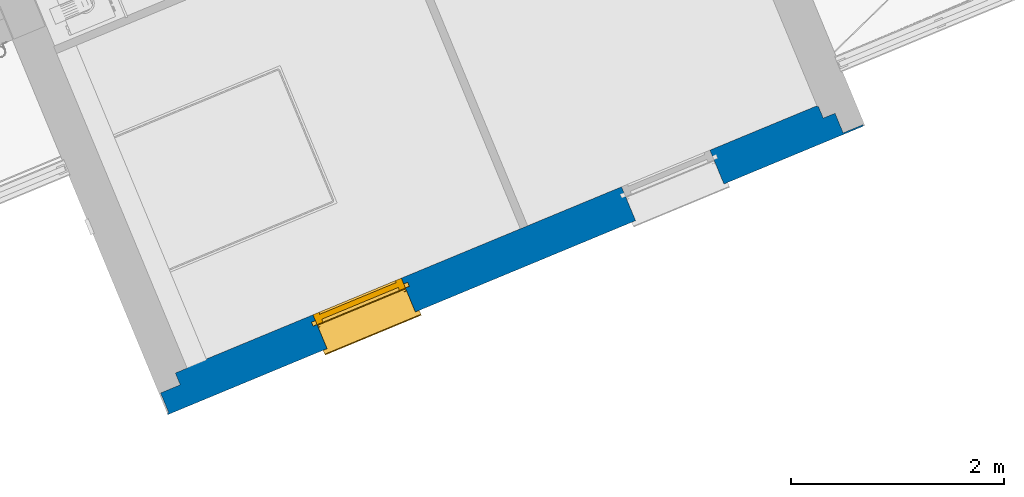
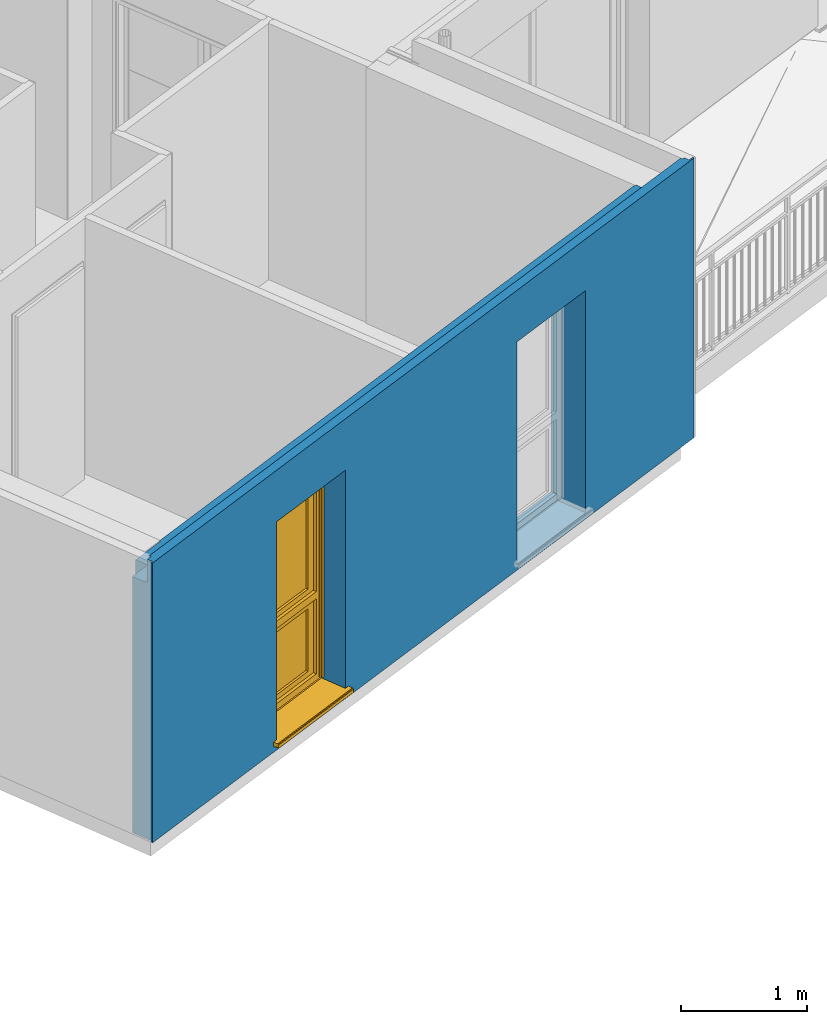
# One storey, part 15 of 90: 1 wall, 1 window, 2 openings.
"""IFC2X3 building model written with IfcOpenShell, lengths in metres."""

from ifc_helpers import new_model, entity, si_unit, converted_unit, derived_unit, money_unit, direction, frame, origin_with_axes, place, context, subcontext, project, spatial, open_shell, faceted_brep, surface_model, source, transform, mapped, material, material_list, type_object, element, fill, save


model = new_model("IFC2X3")

# Units and contexts
model_context = context("Model", 3, precision=1e-05, world=origin_with_axes(), true_north=direction((0.0, 1.0)))
body_context = subcontext(model_context, "Body", "Model", "MODEL_VIEW")
ifc_project = project(units=[si_unit("LENGTHUNIT", "METRE"), si_unit("AREAUNIT", "SQUARE_METRE"), si_unit("VOLUMEUNIT", "CUBIC_METRE"), converted_unit("PLANEANGLEUNIT", "DEGREE", entity("IfcPlaneAngleMeasure", 0.0174532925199), si_unit("PLANEANGLEUNIT", "RADIAN"), dimensions=[0, 0, 0, 0, 0, 0, 0]), si_unit("SOLIDANGLEUNIT", "STERADIAN"), money_unit("EUR"), converted_unit("TIMEUNIT", "Year", entity("IfcTimeMeasure", 31556926.0), si_unit("TIMEUNIT", "SECOND"), dimensions=[0, 0, 1, 0, 0, 0, 0]), si_unit("MASSUNIT", "GRAM", prefix="KILO"), si_unit("THERMODYNAMICTEMPERATUREUNIT", "DEGREE_CELSIUS"), si_unit("LUMINOUSINTENSITYUNIT", "LUMEN"), si_unit("ENERGYUNIT", "JOULE", prefix="MEGA"), derived_unit("THERMALCONDUCTANCEUNIT", [(si_unit("POWERUNIT", "WATT"), 1), (si_unit("LENGTHUNIT", "METRE"), -1), (si_unit("THERMODYNAMICTEMPERATUREUNIT", "KELVIN"), -1)]), derived_unit("SPECIFICHEATCAPACITYUNIT", [(si_unit("ENERGYUNIT", "JOULE"), 1), (si_unit("MASSUNIT", "GRAM", prefix="KILO"), -1), (si_unit("THERMODYNAMICTEMPERATUREUNIT", "KELVIN"), -1)]), derived_unit("MASSDENSITYUNIT", [(si_unit("MASSUNIT", "GRAM", prefix="KILO"), 1), (si_unit("VOLUMEUNIT", "CUBIC_METRE"), -1)])], contexts=[model_context])

# Site, building, storey
site_placement = place(None, origin_with_axes())
site = spatial("IfcSite", under=ifc_project, at=site_placement, Name="Site", CompositionType="ELEMENT")
building_placement = place(site_placement, origin_with_axes())
building = spatial("IfcBuilding", under=site, at=building_placement, Name="Bâtiment", CompositionType="ELEMENT")
storey_placement = place(building_placement, frame((0.0, 0.0, 2.72), z_axis=(0.0, 0.0, 1.0), x_axis=(1.0, 0.0, 0.0)))
storey = spatial("IfcBuildingStorey", under=building, at=storey_placement, Name="R+1", CompositionType="ELEMENT", Elevation=2.72)

# Wall, openings, window
ifc_material_1 = material(Name="Finition int - Plaque de plâtre")
ifc_material_2 = material(Name="Isolation - Polystyrène extrudé")
ifc_material_3 = material(Name="Bloc ELITHERM")
ifc_material_4 = material(Name="Isolation - Polystyrène expansé")
ifc_material_5 = material(Name="Mortier")
ifc_material_6 = material(Name="Béton cellulaire")
ifc_material_7 = material(Name="Finition ext - Crépis")
ifc_material_list = material_list([ifc_material_1, ifc_material_2, ifc_material_3, ifc_material_4, ifc_material_5, ifc_material_6, ifc_material_7])
wall_type = type_object("IfcWallType", Name="Mur ALKERN + planelle 23 345 x 2720", PredefinedType="USERDEFINED")
wall_placement = place(storey_placement, frame((-20.1547284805, -28.2349360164, 0.0), z_axis=(0.0, 0.0, 1.0), x_axis=(0.923701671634, 0.383112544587, 0.0)))
wall = element("IfcWall", 1, at=wall_placement, inside=storey, type_object=wall_type, material=ifc_material_list, Name="Mue bloc ALKERN isolé", ObjectType="SOLIDWALL", context=body_context, shape_type="Brep", body=[
    faceted_brep([(0.53500001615, 0.335000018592, 2.3), (0.33500001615, 0.335000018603, 2.3), (0.334999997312, 0.334999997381, 0.0), (6.75719491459, 0.334999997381, 0.0), (6.75719491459, 0.334999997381, 2.49000000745), (0.53500001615, 0.335000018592, 2.49000000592), (1.6219994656, 0.335000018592, 2.22), (1.6219994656, 0.334999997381, 2.4), (2.5219994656, 0.334999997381, 2.4), (2.5219994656, 0.335000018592, 2.22), (2.5219994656, 0.335000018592, 0.12), (1.6219994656, 0.335000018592, 0.12), (4.76579728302, 0.335000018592, 2.22), (4.76579728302, 0.334999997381, 2.4), (5.66579728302, 0.334999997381, 2.4), (5.66579728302, 0.335000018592, 2.22), (5.66579728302, 0.335000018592, 0.12), (4.76579728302, 0.335000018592, 0.12), (0.535000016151, 0.344999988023, 2.3), (0.335000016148, 0.344999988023, 2.3), (0.33499999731, 0.344999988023, 0.0), (6.75719491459, 0.344999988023, 0.0), (6.75719491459, 0.344999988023, 2.49000000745), (0.535000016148, 0.344999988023, 2.49000000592), (1.6219994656, 0.344999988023, 2.22), (1.6219994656, 0.344999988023, 2.4), (1.6219994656, 0.344999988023, 0.12), (2.5219994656, 0.344999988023, 2.4), (2.5219994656, 0.344999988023, 2.22), (2.5219994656, 0.344999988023, 0.12), (4.76579728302, 0.344999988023, 2.22), (4.76579728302, 0.344999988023, 2.4), (4.76579728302, 0.344999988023, 0.12), (5.66579728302, 0.344999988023, 2.4), (5.66579728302, 0.344999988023, 2.22), (5.66579728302, 0.344999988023, 0.12)], [[[0, 1, 2, 3, 4, 5], [6, 7, 8, 9, 10, 11], [12, 13, 14, 15, 16, 17]], [[1, 0, 18, 19]], [[1, 19, 20, 2]], [[3, 2, 20, 21]], [[21, 22, 4, 3]], [[23, 5, 4, 22]], [[0, 5, 23, 18]], [[24, 25, 7, 6, 11, 26]], [[25, 27, 8, 7]], [[9, 8, 27, 28, 29, 10]], [[26, 11, 10, 29]], [[30, 31, 13, 12, 17, 32]], [[14, 13, 31, 33]], [[15, 14, 33, 34, 35, 16]], [[16, 35, 32, 17]], [[18, 23, 22, 21, 20, 19], [25, 24, 26, 29, 28, 27], [31, 30, 32, 35, 34, 33]]]),
    faceted_brep([(5.66579728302, 0.286, 0.12), (5.66579728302, 0.286, 0.06), (5.66579728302, 0.214999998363, 0.06), (5.66579728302, 0.214999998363, 0.12), (5.66579728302, 0.215, 2.22), (5.66579728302, 0.215, 2.4), (5.66579728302, 0.334999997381, 2.4), (5.66579728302, 0.334999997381, 2.22), (5.66579728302, 0.334999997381, 0.12), (4.76579728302, 0.286, 0.12), (4.76579728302, 0.286, 0.06), (4.76579728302, 0.214999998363, 0.06), (6.76719490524, 0.214999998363, 2.49000000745), (0.214999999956, 0.214999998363, 2.49000000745), (0.214999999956, 0.214999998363, 0.0), (6.76719490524, 0.214999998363, 0.0), (2.5219994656, 0.215, 2.4), (2.5219994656, 0.215, 2.22), (2.5219994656, 0.214999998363, 0.12), (2.5219994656, 0.214999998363, 0.06), (1.6219994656, 0.214999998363, 0.06), (1.6219994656, 0.214999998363, 0.12), (1.6219994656, 0.215, 2.22), (1.6219994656, 0.215, 2.4), (4.76579728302, 0.214999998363, 0.12), (4.76579728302, 0.215, 2.22), (4.76579728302, 0.215, 2.4), (4.76579728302, 0.334999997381, 2.4), (6.76719490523, 0.334999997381, 0.0), (0.214999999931, 0.334999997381, 0.0), (0.214999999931, 0.334999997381, 2.49000000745), (6.76719490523, 0.334999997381, 2.49000000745), (2.5219994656, 0.334999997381, 0.12), (2.5219994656, 0.334999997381, 2.22), (2.5219994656, 0.334999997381, 2.4), (1.6219994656, 0.334999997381, 2.4), (1.6219994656, 0.334999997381, 2.22), (1.6219994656, 0.334999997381, 0.12), (4.76579728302, 0.334999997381, 2.22), (4.76579728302, 0.334999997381, 0.12), (2.5219994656, 0.286, 0.12), (2.5219994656, 0.286, 0.06), (1.6219994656, 0.286, 0.06), (1.6219994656, 0.286, 0.12)], [[[0, 1, 2, 3, 4, 5, 6, 7, 8]], [[0, 9, 10, 1]], [[11, 2, 1, 10]], [[12, 13, 14, 15], [16, 17, 18, 19, 20, 21, 22, 23], [11, 24, 25, 26, 5, 4, 3, 2]], [[26, 27, 6, 5]], [[28, 29, 30, 31], [32, 33, 34, 35, 36, 37], [8, 7, 6, 27, 38, 39]], [[9, 0, 8, 39]], [[24, 11, 10, 9, 39, 38, 27, 26, 25]], [[31, 30, 13, 12]], [[29, 14, 13, 30]], [[15, 14, 29, 28]], [[28, 31, 12, 15]], [[34, 33, 32, 40, 41, 19, 18, 17, 16]], [[20, 19, 41, 42]], [[35, 23, 22, 21, 20, 42, 43, 37, 36]], [[23, 35, 34, 16]], [[43, 40, 32, 37]], [[40, 43, 42, 41]]]),
    faceted_brep([(5.66579728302, 0.215, 0.12), (5.66579728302, 0.215, 0.06), (5.66579728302, 0.015, 0.06), (5.66579728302, 0.015, 0.12), (5.66579728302, 0.015, 2.22), (5.66579728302, 0.215, 2.22), (0.0149999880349, 0.215, 0.0), (0.0149999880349, 0.215, 2.49), (6.88719490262, 0.215, 2.49000000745), (6.88719490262, 0.215, 0.0), (2.5219994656, 0.215, 0.06), (2.5219994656, 0.215, 0.12), (2.5219994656, 0.215, 2.22), (1.6219994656, 0.215, 2.22), (1.6219994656, 0.215, 0.12), (1.6219994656, 0.215, 0.06), (4.76579728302, 0.215, 2.22), (4.76579728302, 0.215, 0.12), (4.76579728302, 0.215, 0.06), (4.76579728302, 0.015, 0.06), (0.014999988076, 0.015, 2.49), (0.014999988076, 0.015, 0.0), (6.88719490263, 0.015, 0.0), (6.88719490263, 0.015, 2.49000000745), (1.6219994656, 0.015, 0.06), (1.6219994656, 0.015, 0.12), (1.6219994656, 0.015, 2.22), (2.5219994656, 0.015, 2.22), (2.5219994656, 0.015, 0.12), (2.5219994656, 0.015, 0.06), (4.76579728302, 0.015, 0.12), (4.76579728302, 0.015, 2.22), (0.014999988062, 0.0829999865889, 2.49), (6.88719490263, 0.0829999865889, 2.49000000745)], [[[0, 1, 2, 3, 4, 5]], [[6, 7, 8, 9], [10, 11, 12, 13, 14, 15], [1, 0, 5, 16, 17, 18]], [[19, 2, 1, 18]], [[20, 21, 22, 23], [24, 25, 26, 27, 28, 29], [19, 30, 31, 4, 3, 2]], [[31, 16, 5, 4]], [[7, 6, 21, 20, 32]], [[7, 32, 33, 8]], [[9, 8, 33, 23, 22]], [[21, 6, 9, 22]], [[11, 10, 29, 28, 27, 12]], [[12, 27, 26, 13]], [[25, 24, 15, 14, 13, 26]], [[10, 15, 24, 29]], [[30, 19, 18, 17, 16, 31]], [[32, 20, 23, 33]]]),
    faceted_brep([(7.01919490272, 0.0829999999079, 2.72), (0.063000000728, 0.0829999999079, 2.72), (0.0630000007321, 0.062999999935, 2.72), (7.01919490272, 0.062999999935, 2.72), (7.01919490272, 0.0829999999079, 2.5000000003), (0.063000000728, 0.0829999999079, 2.5000000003), (0.0630000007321, 0.062999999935, 2.5000000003), (7.01919490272, 0.062999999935, 2.5000000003)], [[[0, 1, 2, 3]], [[4, 5, 1, 0]], [[5, 6, 2, 1]], [[3, 2, 6, 7]], [[4, 0, 3, 7]], [[7, 6, 5, 4]]]),
    faceted_brep([(0.014999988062, 0.083, 2.5), (0.014999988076, 0.015, 2.5), (7.01919490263, 0.015, 2.5), (7.01919490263, 0.083, 2.5), (0.014999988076, 0.015, 2.49), (0.014999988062, 0.083, 2.49), (7.01919490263, 0.015, 2.49), (7.01919490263, 0.083, 2.49)], [[[0, 1, 2, 3]], [[4, 1, 0, 5]], [[1, 4, 6, 2]], [[3, 2, 6, 7]], [[5, 0, 3, 7]], [[4, 5, 7, 6]]]),
    faceted_brep([(0.0149999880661, 0.0630000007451, 2.72), (0.014999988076, 0.015, 2.72), (7.03919490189, 0.015, 2.72), (7.03919490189, 0.0630000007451, 2.72), (0.014999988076, 0.015, 2.5), (0.0149999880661, 0.0630000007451, 2.5), (7.03919490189, 0.015, 2.5000000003), (7.03919490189, 0.0630000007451, 2.5000000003)], [[[0, 1, 2, 3]], [[4, 1, 0, 5]], [[1, 4, 6, 2]], [[3, 2, 6, 7]], [[5, 0, 3, 7]], [[4, 5, 7, 6]]]),
    faceted_brep([(5.66579728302, 0.0149999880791, 0.12), (5.66579728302, 0.0, 0.12), (5.66579728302, 0.0, 2.22), (5.66579728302, 0.0149999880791, 2.22), (5.66579728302, 0.0, 0.06), (5.66579728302, 0.0149999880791, 0.06), (7.08719491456, 0.0, 2.72), (1.19209424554e-08, 0.0, 2.72), (1.19209424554e-08, 0.0, 0.0), (7.08719491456, 0.0, 0.0), (1.6219994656, 0.0, 0.06), (1.6219994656, 0.0, 0.12), (1.6219994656, 0.0, 2.22), (2.5219994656, 0.0, 2.22), (2.5219994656, 0.0, 0.12), (2.5219994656, 0.0, 0.06), (4.76579728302, 0.0, 0.06), (4.76579728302, 0.0, 0.12), (4.76579728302, 0.0, 2.22), (4.76579728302, 0.0149999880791, 2.22), (1.19178622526e-08, 0.0149999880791, 2.72), (7.08719491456, 0.0149999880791, 2.72), (7.08719491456, 0.0149999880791, 0.0), (1.19178622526e-08, 0.0149999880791, 0.0), (2.5219994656, 0.0149999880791, 0.06), (2.5219994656, 0.0149999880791, 0.12), (2.5219994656, 0.0149999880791, 2.22), (1.6219994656, 0.0149999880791, 2.22), (1.6219994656, 0.0149999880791, 0.12), (1.6219994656, 0.0149999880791, 0.06), (4.76579728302, 0.0149999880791, 0.12), (4.76579728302, 0.0149999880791, 0.06)], [[[0, 1, 2, 3]], [[4, 1, 0, 5]], [[6, 7, 8, 9], [10, 11, 12, 13, 14, 15], [16, 17, 18, 2, 1, 4]], [[18, 19, 3, 2]], [[20, 21, 22, 23], [24, 25, 26, 27, 28, 29], [5, 0, 3, 19, 30, 31]], [[16, 4, 5, 31]], [[7, 6, 21, 20]], [[20, 23, 8, 7]], [[23, 22, 9, 8]], [[22, 21, 6, 9]], [[10, 29, 28, 11]], [[27, 12, 11, 28]], [[26, 13, 12, 27]], [[13, 26, 25, 14]], [[25, 24, 15, 14]], [[24, 29, 10, 15]], [[30, 17, 16, 31]], [[17, 30, 19, 18]]]),
])
opening_1_placement = place(wall_placement, frame((2.0719994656, 0.0, 0.12), z_axis=(0.0, 0.0, 1.0), x_axis=(1.0, 0.0, 0.0)))
opening_1 = element("IfcOpeningElement", 2, at=opening_1_placement, cuts=wall, Name="MEN 57", context=body_context, shape_type="Brep", body=[
    faceted_brep([(-0.45, 0.834999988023, 0.0), (0.45, 0.834999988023, 0.0), (0.45, 0.245, 0.0), (-0.45, 0.245, 0.0), (-0.45, 0.834999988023, 2.1), (0.45, 0.834999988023, 2.1), (0.45, 0.245, 2.1), (-0.45, 0.245, 2.1)], [[[0, 1, 2, 3]], [[0, 4, 5, 1]], [[1, 5, 6, 2]], [[3, 2, 6, 7]], [[4, 0, 3, 7]], [[5, 4, 7, 6]]]),
    faceted_brep([(-0.45, -0.344999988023, 0.0), (-0.45, -0.344999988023, 2.1), (-0.45, 0.245, 2.1), (-0.45, 0.245, 0.0), (0.45, -0.344999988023, 0.0), (0.45, -0.344999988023, 2.1), (0.45, 0.245, 2.1), (0.45, 0.245, 0.0)], [[[0, 1, 2, 3]], [[0, 4, 5, 1]], [[1, 5, 6, 2]], [[3, 2, 6, 7]], [[4, 0, 3, 7]], [[5, 4, 7, 6]]]),
    faceted_brep([(-0.45, -0.344999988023, 0.0), (-0.45, -0.344999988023, 2.1), (-0.45, 0.245, 2.1), (-0.45, 0.245, 0.0), (0.45, -0.344999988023, 0.0), (0.45, -0.344999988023, 2.1), (0.45, 0.245, 2.1), (0.45, 0.245, 0.0)], [[[0, 1, 2, 3]], [[0, 4, 5, 1]], [[1, 5, 6, 2]], [[3, 2, 6, 7]], [[4, 0, 3, 7]], [[5, 4, 7, 6]]]),
    faceted_brep([(-0.45, 0.804999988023, 2.1), (0.45, 0.804999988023, 2.1), (0.45, 0.215, 2.1), (-0.45, 0.215, 2.1), (-0.45, 0.804999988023, 2.28), (0.45, 0.804999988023, 2.28), (0.45, 0.215, 2.28), (-0.45, 0.215, 2.28)], [[[0, 1, 2, 3]], [[0, 4, 5, 1]], [[1, 5, 6, 2]], [[3, 2, 6, 7]], [[4, 0, 3, 7]], [[5, 4, 7, 6]]]),
    faceted_brep([(-0.45, -0.303999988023, 0.0), (0.45, -0.303999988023, 0.0), (0.45, 0.286, 0.0), (-0.45, 0.286, 0.0), (-0.45, -0.303999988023, -0.06), (0.45, -0.303999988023, -0.06), (0.45, 0.286, -0.06), (-0.45, 0.286, -0.06)], [[[0, 1, 2, 3]], [[0, 4, 5, 1]], [[1, 5, 6, 2]], [[3, 2, 6, 7]], [[4, 0, 3, 7]], [[5, 4, 7, 6]]]),
])
opening_2_placement = place(wall_placement, frame((5.21579728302, 0.0, 0.12), z_axis=(0.0, 0.0, 1.0), x_axis=(1.0, 0.0, 0.0)))
element("IfcOpeningElement", 3, at=opening_2_placement, cuts=wall, Name="MEN 58", context=body_context, shape_type="Brep", body=[
    faceted_brep([(0.45, 0.245, 0.0), (-0.45, 0.245, 0.0), (-0.45, 0.834999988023, 0.0), (0.45, 0.834999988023, 0.0), (0.45, 0.245, 2.1), (-0.45, 0.245, 2.1), (-0.45, 0.834999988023, 2.1), (0.45, 0.834999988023, 2.1)], [[[0, 1, 2, 3]], [[0, 4, 5, 1]], [[1, 5, 6, 2]], [[3, 2, 6, 7]], [[4, 0, 3, 7]], [[5, 4, 7, 6]]]),
    faceted_brep([(0.45, 0.245, 0.0), (0.45, 0.245, 2.1), (0.45, -0.344999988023, 2.1), (0.45, -0.344999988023, 0.0), (-0.45, 0.245, 0.0), (-0.45, 0.245, 2.1), (-0.45, -0.344999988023, 2.1), (-0.45, -0.344999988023, 0.0)], [[[0, 1, 2, 3]], [[0, 4, 5, 1]], [[1, 5, 6, 2]], [[3, 2, 6, 7]], [[4, 0, 3, 7]], [[5, 4, 7, 6]]]),
    faceted_brep([(0.45, 0.245, 0.0), (0.45, 0.245, 2.1), (0.45, -0.344999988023, 2.1), (0.45, -0.344999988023, 0.0), (-0.45, 0.245, 0.0), (-0.45, 0.245, 2.1), (-0.45, -0.344999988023, 2.1), (-0.45, -0.344999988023, 0.0)], [[[0, 1, 2, 3]], [[0, 4, 5, 1]], [[1, 5, 6, 2]], [[3, 2, 6, 7]], [[4, 0, 3, 7]], [[5, 4, 7, 6]]]),
    faceted_brep([(0.45, 0.215, 2.1), (-0.45, 0.215, 2.1), (-0.45, 0.804999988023, 2.1), (0.45, 0.804999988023, 2.1), (0.45, 0.215, 2.28), (-0.45, 0.215, 2.28), (-0.45, 0.804999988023, 2.28), (0.45, 0.804999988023, 2.28)], [[[0, 1, 2, 3]], [[0, 4, 5, 1]], [[1, 5, 6, 2]], [[3, 2, 6, 7]], [[4, 0, 3, 7]], [[5, 4, 7, 6]]]),
    faceted_brep([(0.45, 0.286, 0.0), (-0.45, 0.286, 0.0), (-0.45, -0.303999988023, 0.0), (0.45, -0.303999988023, 0.0), (0.45, 0.286, -0.06), (-0.45, 0.286, -0.06), (-0.45, -0.303999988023, -0.06), (0.45, -0.303999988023, -0.06)], [[[0, 1, 2, 3]], [[0, 4, 5, 1]], [[1, 5, 6, 2]], [[3, 2, 6, 7]], [[4, 0, 3, 7]], [[5, 4, 7, 6]]]),
])
window_style = type_object("IfcWindowStyle", Name="Baie générique 2017 v2", ConstructionType="NOTDEFINED", OperationType="NOTDEFINED", ParameterTakesPrecedence=False, Sizeable=False)
shared_shape = source(origin_with_axes(), body_context, "Body", "SurfaceModel", [
    faceted_brep([(-0.45, 0.0, 2.1), (-0.45, 0.0, 0.0), (0.45, 0.0, 0.0), (0.45, 0.0, 2.1), (0.39, 0.0, 0.85), (-0.39, 0.0, 0.85), (-0.39, 0.0, 2.05), (0.39, 0.0, 2.05), (0.39, 0.0, 0.78), (0.39, 0.0, 0.05), (-0.39, 0.0, 0.05), (-0.39, 0.0, 0.78), (-0.45, 0.1, 2.1), (-0.45, 0.1, 0.0), (0.45, 0.1, 0.0), (0.45, 0.1, 2.1), (0.39, 0.1, 0.85), (-0.39, 0.1, 0.85), (-0.39, 0.1, 2.05), (0.39, 0.1, 2.05), (0.39, 0.1, 0.78), (0.39, 0.1, 0.05), (-0.39, 0.1, 0.05), (-0.39, 0.1, 0.78)], [[[0, 1, 2, 3], [4, 5, 6, 7], [8, 9, 10, 11]], [[0, 12, 13, 1]], [[1, 13, 14, 2]], [[2, 14, 15, 3]], [[3, 15, 12, 0]], [[4, 16, 17, 5]], [[5, 17, 18, 6]], [[6, 18, 19, 7]], [[16, 4, 7, 19]], [[8, 20, 21, 9]], [[9, 21, 22, 10]], [[23, 11, 10, 22]], [[20, 8, 11, 23]], [[14, 13, 12, 15], [16, 19, 18, 17], [20, 23, 22, 21]]]),
    faceted_brep([(0.39, 0.08, 2.05), (0.39, 0.08, 0.85), (-0.39, 0.08, 0.85), (-0.39, 0.08, 2.05), (0.32, 0.08, 1.98), (-0.32, 0.08, 1.98), (-0.32, 0.08, 0.9), (0.32, 0.08, 0.9), (0.39, 0.03, 2.05), (0.39, 0.03, 0.85), (-0.39, 0.03, 0.85), (-0.39, 0.03, 2.05), (0.32, 0.03, 1.98), (-0.32, 0.03, 1.98), (-0.32, 0.03, 0.9), (0.32, 0.03, 0.9)], [[[0, 1, 2, 3], [4, 5, 6, 7]], [[1, 0, 8, 9]], [[10, 2, 1, 9]], [[11, 3, 2, 10]], [[0, 3, 11, 8]], [[5, 4, 12, 13]], [[14, 6, 5, 13]], [[15, 7, 6, 14]], [[4, 7, 15, 12]], [[11, 10, 9, 8], [15, 14, 13, 12]]]),
    surface_model("IfcShellBasedSurfaceModel", [(-0.39, 0.08, 0.85), (-0.39, 0.055, 0.85), (-0.39, 0.055, 2.05), (-0.39, 0.08, 2.05)], [open_shell([[[0, 1, 2, 3]]])]),
    surface_model("IfcShellBasedSurfaceModel", [(0.39, 0.08, 0.85), (0.39, 0.055, 0.85), (0.39, 0.055, 2.05), (0.39, 0.08, 2.05)], [open_shell([[[0, 1, 2, 3]]])]),
    surface_model("IfcShellBasedSurfaceModel", [(-0.39, 0.08, 0.85), (-0.39, 0.055, 0.85), (0.39, 0.055, 0.85), (0.39, 0.08, 0.85)], [open_shell([[[0, 1, 2, 3]]])]),
    surface_model("IfcShellBasedSurfaceModel", [(-0.39, 0.08, 2.05), (-0.39, 0.055, 2.05), (0.39, 0.055, 2.05), (0.39, 0.08, 2.05)], [open_shell([[[0, 1, 2, 3]]])]),
    surface_model("IfcShellBasedSurfaceModel", [(-0.39, 0.055, 0.85), (-0.39, 0.03, 0.85), (-0.39, 0.03, 2.05), (-0.39, 0.055, 2.05)], [open_shell([[[0, 1, 2, 3]]])]),
    surface_model("IfcShellBasedSurfaceModel", [(0.39, 0.055, 0.85), (0.39, 0.03, 0.85), (0.39, 0.03, 2.05), (0.39, 0.055, 2.05)], [open_shell([[[0, 1, 2, 3]]])]),
    surface_model("IfcShellBasedSurfaceModel", [(-0.39, 0.055, 0.85), (-0.39, 0.03, 0.85), (0.39, 0.03, 0.85), (0.39, 0.055, 0.85)], [open_shell([[[0, 1, 2, 3]]])]),
    surface_model("IfcShellBasedSurfaceModel", [(-0.39, 0.055, 2.05), (-0.39, 0.03, 2.05), (0.39, 0.03, 2.05), (0.39, 0.055, 2.05)], [open_shell([[[0, 1, 2, 3]]])]),
    faceted_brep([(-0.32, 0.0575, 0.9), (0.32, 0.0575, 0.9), (0.32, 0.0525, 0.9), (-0.32, 0.0525, 0.9), (-0.32, 0.0575, 1.98), (0.32, 0.0575, 1.98), (0.32, 0.0525, 1.98), (-0.32, 0.0525, 1.98)], [[[0, 1, 2, 3]], [[0, 4, 5, 1]], [[1, 5, 6, 2]], [[3, 2, 6, 7]], [[4, 0, 3, 7]], [[5, 4, 7, 6]]]),
    faceted_brep([(0.39, 0.08, 0.78), (0.39, 0.08, 0.05), (-0.39, 0.08, 0.05), (-0.39, 0.08, 0.78), (0.32, 0.08, 0.71), (-0.32, 0.08, 0.71), (-0.32, 0.08, 0.1), (0.32, 0.08, 0.1), (0.39, 0.03, 0.78), (0.39, 0.03, 0.05), (-0.39, 0.03, 0.05), (-0.39, 0.03, 0.78), (0.32, 0.03, 0.71), (-0.32, 0.03, 0.71), (-0.32, 0.03, 0.1), (0.32, 0.03, 0.1)], [[[0, 1, 2, 3], [4, 5, 6, 7]], [[1, 0, 8, 9]], [[10, 2, 1, 9]], [[11, 3, 2, 10]], [[0, 3, 11, 8]], [[5, 4, 12, 13]], [[14, 6, 5, 13]], [[15, 7, 6, 14]], [[4, 7, 15, 12]], [[11, 10, 9, 8], [15, 14, 13, 12]]]),
    surface_model("IfcShellBasedSurfaceModel", [(-0.39, 0.08, 0.05), (-0.39, 0.055, 0.05), (-0.39, 0.055, 0.78), (-0.39, 0.08, 0.78)], [open_shell([[[0, 1, 2, 3]]])]),
    surface_model("IfcShellBasedSurfaceModel", [(0.39, 0.08, 0.05), (0.39, 0.055, 0.05), (0.39, 0.055, 0.78), (0.39, 0.08, 0.78)], [open_shell([[[0, 1, 2, 3]]])]),
    surface_model("IfcShellBasedSurfaceModel", [(-0.39, 0.08, 0.05), (-0.39, 0.055, 0.05), (0.39, 0.055, 0.05), (0.39, 0.08, 0.05)], [open_shell([[[0, 1, 2, 3]]])]),
    surface_model("IfcShellBasedSurfaceModel", [(-0.39, 0.08, 0.78), (-0.39, 0.055, 0.78), (0.39, 0.055, 0.78), (0.39, 0.08, 0.78)], [open_shell([[[0, 1, 2, 3]]])]),
    surface_model("IfcShellBasedSurfaceModel", [(-0.39, 0.055, 0.05), (-0.39, 0.03, 0.05), (-0.39, 0.03, 0.78), (-0.39, 0.055, 0.78)], [open_shell([[[0, 1, 2, 3]]])]),
    surface_model("IfcShellBasedSurfaceModel", [(0.39, 0.055, 0.05), (0.39, 0.03, 0.05), (0.39, 0.03, 0.78), (0.39, 0.055, 0.78)], [open_shell([[[0, 1, 2, 3]]])]),
    surface_model("IfcShellBasedSurfaceModel", [(-0.39, 0.055, 0.05), (-0.39, 0.03, 0.05), (0.39, 0.03, 0.05), (0.39, 0.055, 0.05)], [open_shell([[[0, 1, 2, 3]]])]),
    surface_model("IfcShellBasedSurfaceModel", [(-0.39, 0.055, 0.78), (-0.39, 0.03, 0.78), (0.39, 0.03, 0.78), (0.39, 0.055, 0.78)], [open_shell([[[0, 1, 2, 3]]])]),
    faceted_brep([(-0.32, 0.0575, 0.1), (0.32, 0.0575, 0.1), (0.32, 0.0525, 0.1), (-0.32, 0.0525, 0.1), (-0.32, 0.0575, 0.71), (0.32, 0.0575, 0.71), (0.32, 0.0525, 0.71), (-0.32, 0.0525, 0.71)], [[[0, 1, 2, 3]], [[0, 4, 5, 1]], [[1, 5, 6, 2]], [[3, 2, 6, 7]], [[4, 0, 3, 7]], [[5, 4, 7, 6]]]),
    faceted_brep([(-0.45, -0.03, 0.0), (-0.425, -0.03, 0.0), (-0.425, -0.03, 2.1), (-0.45, -0.03, 2.1), (-0.45, -0.002, 0.0), (-0.425, -0.002, 0.0), (-0.425, -0.004, 0.0), (-0.448, -0.004, 0.0), (-0.448, -0.028, 0.0), (-0.425, -0.028, 0.0), (-0.425, -0.028, 2.1), (-0.448, -0.028, 2.1), (-0.448, -0.004, 2.1), (-0.425, -0.004, 2.1), (-0.425, -0.002, 2.1), (-0.45, -0.002, 2.1)], [[[0, 1, 2, 3]], [[0, 4, 5, 6, 7, 8, 9, 1]], [[1, 9, 10, 2]], [[3, 2, 10, 11, 12, 13, 14, 15]], [[4, 0, 3, 15]], [[5, 4, 15, 14]], [[6, 5, 14, 13]], [[7, 6, 13, 12]], [[8, 7, 12, 11]], [[9, 8, 11, 10]]]),
    faceted_brep([(0.45, -0.03, 0.0), (0.45, -0.03, 2.1), (0.425, -0.03, 2.1), (0.425, -0.03, 0.0), (0.45, -0.002, 0.0), (0.45, -0.002, 2.1), (0.425, -0.002, 2.1), (0.425, -0.004, 2.1), (0.448, -0.004, 2.1), (0.448, -0.028, 2.1), (0.425, -0.028, 2.1), (0.425, -0.028, 0.0), (0.448, -0.028, 0.0), (0.448, -0.004, 0.0), (0.425, -0.004, 0.0), (0.425, -0.002, 0.0)], [[[0, 1, 2, 3]], [[4, 5, 1, 0]], [[1, 5, 6, 7, 8, 9, 10, 2]], [[3, 2, 10, 11]], [[0, 3, 11, 12, 13, 14, 15, 4]], [[15, 6, 5, 4]], [[14, 7, 6, 15]], [[13, 8, 7, 14]], [[12, 9, 8, 13]], [[11, 10, 9, 12]]]),
    faceted_brep([(0.448, -0.028, 2.1), (-0.448, -0.028, 2.1), (-0.448, -0.028, 2.278), (0.448, -0.028, 2.278), (0.448, -0.03, 2.1), (-0.448, -0.03, 2.1), (-0.448, -0.03, 2.28), (-0.448, 0.17, 2.28), (-0.448, 0.17, 2.1), (-0.448, 0.168, 2.1), (-0.448, 0.168, 2.278), (0.448, 0.168, 2.278), (0.448, 0.168, 2.1), (0.448, 0.17, 2.1), (0.448, 0.17, 2.28), (0.448, -0.03, 2.28)], [[[0, 1, 2, 3]], [[4, 5, 1, 0]], [[1, 5, 6, 7, 8, 9, 10, 2]], [[3, 2, 10, 11]], [[0, 3, 11, 12, 13, 14, 15, 4]], [[15, 6, 5, 4]], [[14, 7, 6, 15]], [[13, 8, 7, 14]], [[12, 9, 8, 13]], [[11, 10, 9, 12]]]),
    faceted_brep([(0.448, 0.0724697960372, 2.17436337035), (0.448, 0.08, 2.19), (0.448, 0.0724697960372, 2.20563662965), (0.448, 0.0555495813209, 2.20949855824), (0.448, 0.041980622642, 2.19867767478), (0.448, 0.041980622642, 2.18132232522), (0.448, 0.0555495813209, 2.17050144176), (-0.448, 0.0724697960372, 2.17436337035), (-0.448, 0.08, 2.19), (-0.448, 0.0724697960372, 2.20563662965), (-0.448, 0.0555495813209, 2.20949855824), (-0.448, 0.041980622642, 2.19867767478), (-0.448, 0.041980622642, 2.18132232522), (-0.448, 0.0555495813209, 2.17050144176)], [[[0, 1, 2, 3, 4, 5, 6]], [[0, 7, 8, 1]], [[1, 8, 9, 2]], [[2, 9, 10, 3]], [[3, 10, 11, 4]], [[4, 11, 12, 5]], [[5, 12, 13, 6]], [[6, 13, 7, 0]], [[7, 13, 12, 11, 10, 9, 8]]]),
    faceted_brep([(0.438, 0.130275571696, 2.15615706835), (0.438, 0.138, 2.19), (0.438, 0.130275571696, 2.22384293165), (0.438, 0.108632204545, 2.25098285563), (0.438, 0.0773566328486, 2.26604437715), (0.438, 0.0426433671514, 2.26604437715), (0.438, 0.011367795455, 2.25098285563), (0.438, -0.0102755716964, 2.22384293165), (0.438, -0.018, 2.19), (0.438, -0.0102755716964, 2.15615706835), (0.438, 0.011367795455, 2.12901714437), (0.438, 0.0426433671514, 2.11395562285), (0.438, 0.0773566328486, 2.11395562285), (0.438, 0.108632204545, 2.12901714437), (-0.438, 0.130275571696, 2.15615706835), (-0.438, 0.138, 2.19), (-0.438, 0.130275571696, 2.22384293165), (-0.438, 0.108632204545, 2.25098285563), (-0.438, 0.0773566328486, 2.26604437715), (-0.438, 0.0426433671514, 2.26604437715), (-0.438, 0.011367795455, 2.25098285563), (-0.438, -0.0102755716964, 2.22384293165), (-0.438, -0.018, 2.19), (-0.438, -0.0102755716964, 2.15615706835), (-0.438, 0.011367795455, 2.12901714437), (-0.438, 0.0426433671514, 2.11395562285), (-0.438, 0.0773566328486, 2.11395562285), (-0.438, 0.108632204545, 2.12901714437)], [[[0, 1, 2, 3, 4, 5, 6, 7, 8, 9, 10, 11, 12, 13]], [[0, 14, 15, 1]], [[1, 15, 16, 2]], [[2, 16, 17, 3]], [[3, 17, 18, 4]], [[4, 18, 19, 5]], [[5, 19, 20, 6]], [[6, 20, 21, 7]], [[7, 21, 22, 8]], [[8, 22, 23, 9]], [[9, 23, 24, 10]], [[10, 24, 25, 11]], [[11, 25, 26, 12]], [[12, 26, 27, 13]], [[13, 27, 14, 0]], [[14, 27, 26, 25, 24, 23, 22, 21, 20, 19, 18, 17, 16, 15]]]),
    faceted_brep([(0.45, 0.17, 2.1), (0.448, 0.17, 2.1), (0.448, 0.17, 2.28), (0.45, 0.17, 2.28), (0.45, -0.03, 2.1), (0.448, -0.03, 2.1), (0.448, -0.03, 2.28), (0.45, -0.03, 2.28)], [[[0, 1, 2, 3]], [[4, 5, 1, 0]], [[1, 5, 6, 2]], [[3, 2, 6, 7]], [[0, 3, 7, 4]], [[7, 6, 5, 4]]]),
    faceted_brep([(-0.448, 0.17, 2.1), (-0.45, 0.17, 2.1), (-0.45, 0.17, 2.28), (-0.448, 0.17, 2.28), (-0.448, -0.03, 2.1), (-0.45, -0.03, 2.1), (-0.45, -0.03, 2.28), (-0.448, -0.03, 2.28)], [[[0, 1, 2, 3]], [[4, 5, 1, 0]], [[1, 5, 6, 2]], [[3, 2, 6, 7]], [[0, 3, 7, 4]], [[7, 6, 5, 4]]]),
    faceted_brep([(0.448, -0.004, 2.1), (-0.448, -0.004, 2.1), (-0.448, 0.168, 2.1), (0.448, 0.168, 2.1), (0.448, -0.004, 2.102), (-0.448, -0.004, 2.102), (-0.448, 0.168, 2.102), (0.448, 0.168, 2.102)], [[[0, 1, 2, 3]], [[4, 5, 1, 0]], [[1, 5, 6, 2]], [[3, 2, 6, 7]], [[0, 3, 7, 4]], [[7, 6, 5, 4]]]),
    faceted_brep([(-0.438, -0.006, 2.1), (-0.438, -0.006, 2.19), (0.438, -0.006, 2.19), (0.438, -0.006, 2.1), (-0.438, -0.026, 2.1), (-0.438, -0.026, 2.19), (0.438, -0.026, 2.19), (0.438, -0.026, 2.1)], [[[0, 1, 2, 3]], [[1, 0, 4, 5]], [[2, 1, 5, 6]], [[3, 2, 6, 7]], [[4, 0, 3, 7]], [[5, 4, 7, 6]]]),
    faceted_brep([(0.45, -0.00167949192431, -0.01), (0.45, 0.0, -0.00373205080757), (0.49, 0.0, -0.00373205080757), (0.49, 0.001, 0.0), (-0.49, 0.001, 0.0), (-0.49, 0.0, -0.00373205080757), (-0.45, 0.0, -0.00373205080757), (-0.45, -0.00167949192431, -0.01), (0.45, -0.009, -0.0173205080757), (0.45, -0.019, -0.02), (0.45, -0.245, -0.02), (0.45, -0.245, -0.06), (0.45, 0.0, -0.06), (0.49, 0.0, -0.06), (0.49, 0.041, -0.06), (0.49, 0.041, 0.0), (-0.49, 0.041, 0.0), (-0.49, 0.041, -0.06), (-0.49, 0.0, -0.06), (-0.45, 0.0, -0.06), (-0.45, -0.245, -0.02), (-0.45, -0.019, -0.02), (-0.45, -0.009, -0.0173205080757), (-0.45, -0.245, -0.06), (-0.49, -0.245, -0.02), (-0.49, -0.285, -0.02), (0.49, -0.285, -0.02), (0.49, -0.245, -0.02), (0.49, -0.245, -0.06), (0.49, -0.275, -0.06), (-0.49, -0.275, -0.06), (-0.49, -0.245, -0.06), (-0.49, -0.295, -0.03), (-0.49, -0.292071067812, -0.0229289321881), (-0.49, -0.275, -0.05), (-0.49, -0.285, -0.05), (-0.49, -0.285, -0.06), (-0.49, -0.295, -0.06), (0.49, -0.292071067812, -0.0229289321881), (0.49, -0.295, -0.03), (0.49, -0.295, -0.06), (0.49, -0.285, -0.06), (0.49, -0.285, -0.05), (0.49, -0.275, -0.05)], [[[0, 1, 2, 3, 4, 5, 6, 7]], [[1, 0, 8, 9, 10, 11, 12]], [[13, 2, 1, 12]], [[2, 13, 14, 15, 3]], [[16, 4, 3, 15]], [[4, 16, 17, 18, 5]], [[5, 18, 19, 6]], [[20, 21, 22, 7, 6, 19, 23]], [[8, 0, 7, 22]], [[9, 8, 22, 21]], [[10, 9, 21, 20, 24, 25, 26, 27]], [[10, 27, 28, 11]], [[11, 28, 29, 30, 31, 23, 19, 18, 17, 14, 13, 12]], [[17, 16, 15, 14]], [[20, 23, 31, 24]], [[32, 33, 25, 24, 31, 30, 34, 35, 36, 37]], [[25, 33, 38, 26]], [[28, 27, 26, 38, 39, 40, 41, 42, 43, 29]], [[34, 30, 29, 43]], [[33, 32, 39, 38]], [[35, 34, 43, 42]], [[36, 35, 42, 41]], [[37, 36, 41, 40]], [[32, 37, 40, 39]]]),
])
window_placement = place(opening_1_placement, frame((-0.45, 0.0, 0.0), z_axis=(0.0, 0.0, 1.0), x_axis=(1.0, 0.0, 0.0)))
window = element("IfcWindow", 4, at=window_placement, inside=storey, type_object=window_style, Name="MEN 57", ObjectType="WINDOW", OverallHeight=2.1, OverallWidth=0.9, context=body_context, shape_type="MappedRepresentation", body=[
    mapped(shared_shape, transform((0.45, 0.245, 0.0))),
])
fill(opening_1, window)

save(model, "model.ifc")
